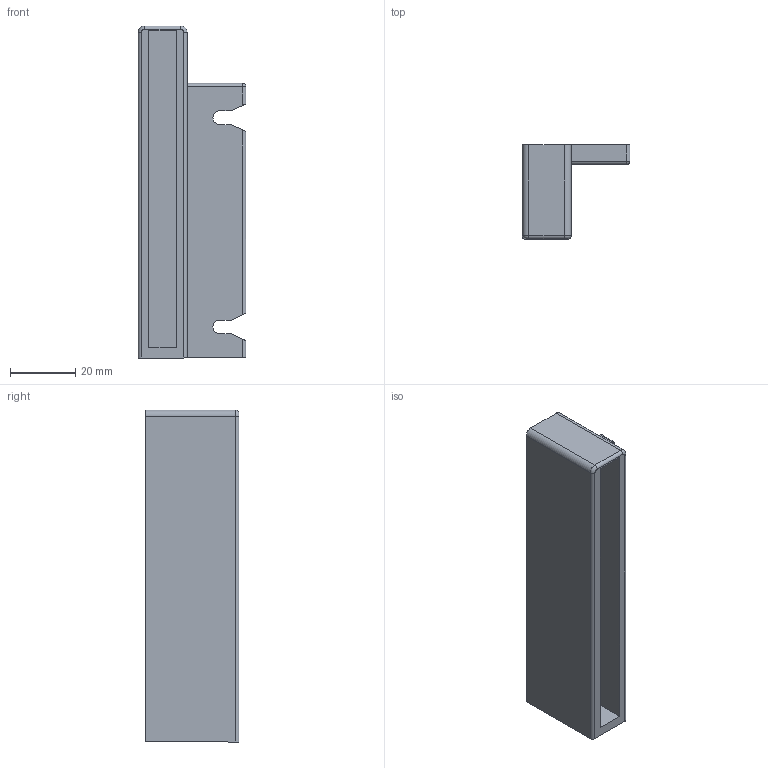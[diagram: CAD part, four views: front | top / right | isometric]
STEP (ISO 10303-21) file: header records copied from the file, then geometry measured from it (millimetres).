
FILE_DESCRIPTION (( 'STEP AP214' ), '1' );
FILE_NAME ('Abdeckkappe_Classic_hinten_links_HRW_Crystal .step', '2010-10-27T12:36:52', ( 'grass' ), ( '' ), 'SwSTEP 2.0', 'SolidWorks 2010', '' );
FILE_SCHEMA (( 'AUTOMOTIVE_DESIGN' ));
Length unit declared in the file: millimetre
Products named in the file (1): Abdeckkappe_Classic_hinten_links_HRW_Crystal 
Bounding box: 33 x 28.75 x 101.56 mm (x, y, z)
Volume: 43452.7 mm3; surface area: 14922.5 mm2
Topology: 1 solids, 1 shells, 51 faces, 138 edges, 89 vertices
Faces by surface type: plane 30, cylinder 18, torus 2, sphere 1
Entity records: 1623 total; most frequent: CARTESIAN_POINT 290, ORIENTED_EDGE 274, DIRECTION 271, EDGE_CURVE 137, VECTOR 99, LINE 99, VERTEX_POINT 89, AXIS2_PLACEMENT_3D 86
